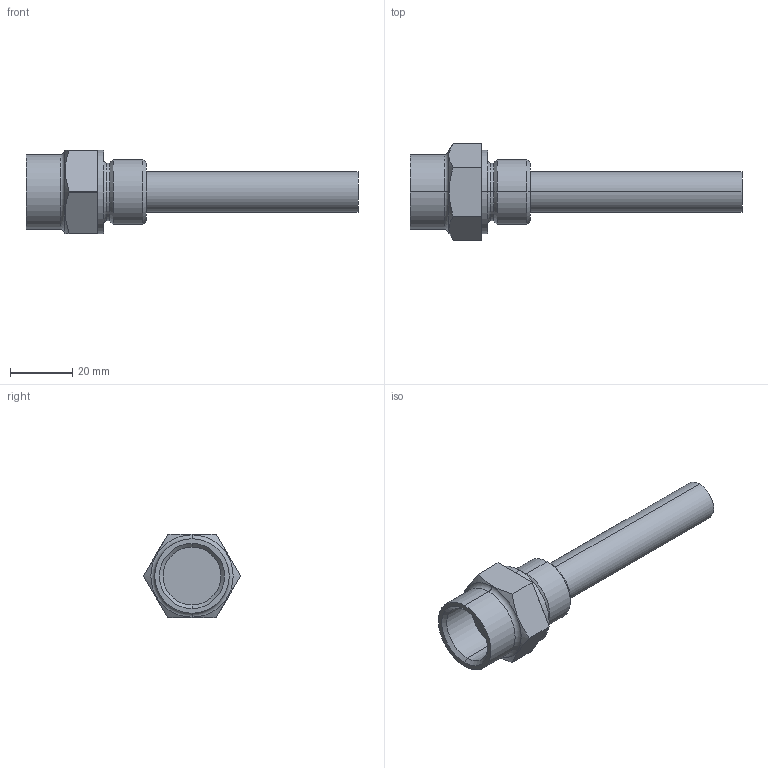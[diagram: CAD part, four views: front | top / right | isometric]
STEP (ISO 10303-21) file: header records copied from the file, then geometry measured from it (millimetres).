
FILE_DESCRIPTION( ( '' ), '1' );
FILE_NAME( '//partserver001.servicenet/client_exchange/iodir/jobs/output/wkb13372058_no0/STEP/e35010_2_03.stp', '2008-12-04T12:06:43', ( '' ), ( '' ), ' ', ' ', ' ' );
FILE_SCHEMA( ( 'CONFIG_CONTROL_DESIGN' ) );
Length unit declared in the file: millimetre
Products named in the file (1): 1
Bounding box: 107 x 31.18 x 27 mm (x, y, z)
Volume: 23586.2 mm3; surface area: 7670.5 mm2
Topology: 1 solids, 1 shells, 47 faces, 105 edges, 63 vertices
Faces by surface type: cylinder 18, plane 17, cone 8, torus 4
Entity records: 1340 total; most frequent: DIRECTION 246, CARTESIAN_POINT 232, ORIENTED_EDGE 210, EDGE_CURVE 105, AXIS2_PLACEMENT_3D 101, VERTEX_POINT 63, CIRCLE 53, EDGE_LOOP 50
